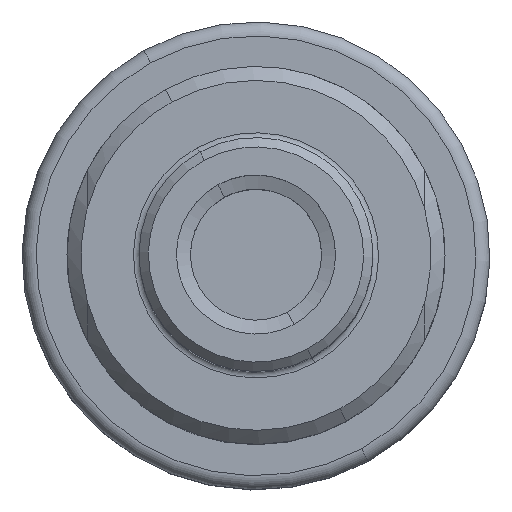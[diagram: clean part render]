
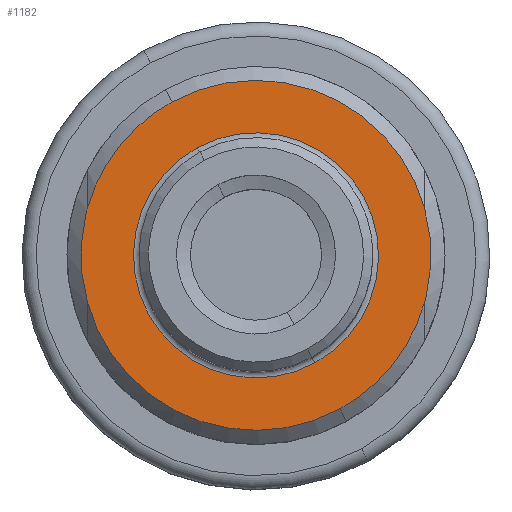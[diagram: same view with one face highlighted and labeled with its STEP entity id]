
A CAD part, top view. The second image highlights one B-rep face of the part: STEP entity #1182.
In plain terms, the highlighted planar face has unit normal (0, 0, 1).
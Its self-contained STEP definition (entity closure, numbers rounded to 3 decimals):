
#1062=AXIS2_PLACEMENT_3D('Circle Axis2P3D',#1060,#1061,$) ;
#1137=AXIS2_PLACEMENT_3D('Circle Axis2P3D',#1135,#1136,$) ;
#1152=AXIS2_PLACEMENT_3D('Plane Axis2P3D',#1149,#1150,#1151) ;
#1166=AXIS2_PLACEMENT_3D('Circle Axis2P3D',#1164,#1165,$) ;
#1175=AXIS2_PLACEMENT_3D('Circle Axis2P3D',#1173,#1174,$) ;
#982=CARTESIAN_POINT('Vertex',(8.965,-16.411,-50.)) ;
#986=CARTESIAN_POINT('Control Point',(8.965,-16.411,-50.)) ;
#987=CARTESIAN_POINT('Control Point',(6.168,-17.939,-50.)) ;
#988=CARTESIAN_POINT('Control Point',(3.046,-18.871,-50.)) ;
#989=CARTESIAN_POINT('Control Point',(-0.231,-19.114,-50.)) ;
#990=CARTESIAN_POINT('Control Point',(-7.031,-18.14,-50.)) ;
#991=CARTESIAN_POINT('Control Point',(-12.791,-14.335,-50.)) ;
#992=CARTESIAN_POINT('Control Point',(-15.283,-11.642,-50.)) ;
#993=CARTESIAN_POINT('Control Point',(-17.043,-8.468,-50.)) ;
#994=CARTESIAN_POINT('Control Point',(-18.,-5.069,-50.)) ;
#995=CARTESIAN_POINT('Vertex',(-18.,-5.069,-50.)) ;
#1021=CARTESIAN_POINT('Vertex',(18.,-5.069,-50.)) ;
#1025=CARTESIAN_POINT('Control Point',(18.,-5.069,-50.)) ;
#1026=CARTESIAN_POINT('Control Point',(16.991,-8.652,-50.)) ;
#1027=CARTESIAN_POINT('Control Point',(15.028,-11.971,-50.)) ;
#1028=CARTESIAN_POINT('Control Point',(12.233,-14.626,-50.)) ;
#1029=CARTESIAN_POINT('Control Point',(8.965,-16.411,-50.)) ;
#1048=CARTESIAN_POINT('Vertex',(18.,5.069,-50.)) ;
#1052=CARTESIAN_POINT('Control Point',(18.,5.069,-50.)) ;
#1053=CARTESIAN_POINT('Control Point',(18.648,2.769,-50.)) ;
#1054=CARTESIAN_POINT('Control Point',(18.903,0.358,-50.)) ;
#1055=CARTESIAN_POINT('Control Point',(18.739,-2.06,-50.)) ;
#1056=CARTESIAN_POINT('Control Point',(18.179,-4.382,-50.)) ;
#1057=CARTESIAN_POINT('Vertex',(18.179,-4.382,-50.)) ;
#1060=CARTESIAN_POINT('Axis2P3D Location',(0.,0.,-50.)) ;
#1077=CARTESIAN_POINT('Vertex',(-8.965,16.411,-50.)) ;
#1081=CARTESIAN_POINT('Control Point',(-8.965,16.411,-50.)) ;
#1082=CARTESIAN_POINT('Control Point',(-6.168,17.939,-50.)) ;
#1083=CARTESIAN_POINT('Control Point',(-3.046,18.871,-50.)) ;
#1084=CARTESIAN_POINT('Control Point',(0.231,19.114,-50.)) ;
#1085=CARTESIAN_POINT('Control Point',(7.031,18.14,-50.)) ;
#1086=CARTESIAN_POINT('Control Point',(12.791,14.335,-50.)) ;
#1087=CARTESIAN_POINT('Control Point',(15.283,11.642,-50.)) ;
#1088=CARTESIAN_POINT('Control Point',(17.043,8.468,-50.)) ;
#1089=CARTESIAN_POINT('Control Point',(18.,5.069,-50.)) ;
#1108=CARTESIAN_POINT('Vertex',(-18.,5.069,-50.)) ;
#1112=CARTESIAN_POINT('Control Point',(-18.,5.069,-50.)) ;
#1113=CARTESIAN_POINT('Control Point',(-16.991,8.652,-50.)) ;
#1114=CARTESIAN_POINT('Control Point',(-15.028,11.971,-50.)) ;
#1115=CARTESIAN_POINT('Control Point',(-12.233,14.626,-50.)) ;
#1116=CARTESIAN_POINT('Control Point',(-8.965,16.411,-50.)) ;
#1127=CARTESIAN_POINT('Control Point',(-18.,-5.069,-50.)) ;
#1128=CARTESIAN_POINT('Control Point',(-18.648,-2.769,-50.)) ;
#1129=CARTESIAN_POINT('Control Point',(-18.903,-0.358,-50.)) ;
#1130=CARTESIAN_POINT('Control Point',(-18.739,2.06,-50.)) ;
#1131=CARTESIAN_POINT('Control Point',(-18.179,4.382,-50.)) ;
#1132=CARTESIAN_POINT('Vertex',(-18.179,4.382,-50.)) ;
#1135=CARTESIAN_POINT('Axis2P3D Location',(0.,0.,-50.)) ;
#1149=CARTESIAN_POINT('Axis2P3D Location',(0.,20.2,-50.)) ;
#1164=CARTESIAN_POINT('Axis2P3D Location',(0.,0.,-50.)) ;
#1168=CARTESIAN_POINT('Vertex',(-6.28,11.496,-50.)) ;
#1170=CARTESIAN_POINT('Vertex',(6.28,-11.496,-50.)) ;
#1173=CARTESIAN_POINT('Axis2P3D Location',(0.,0.,-50.)) ;
#1061=DIRECTION('Axis2P3D Direction',(0.,0.,1.)) ;
#1136=DIRECTION('Axis2P3D Direction',(0.,0.,1.)) ;
#1150=DIRECTION('Axis2P3D Direction',(0.,0.,1.)) ;
#1151=DIRECTION('Axis2P3D XDirection',(1.,0.,0.)) ;
#1165=DIRECTION('Axis2P3D Direction',(0.,0.,1.)) ;
#1174=DIRECTION('Axis2P3D Direction',(0.,0.,1.)) ;
#1155=ORIENTED_EDGE('',*,*,#997,.F.) ;
#1156=ORIENTED_EDGE('',*,*,#1030,.F.) ;
#1157=ORIENTED_EDGE('',*,*,#1064,.F.) ;
#1158=ORIENTED_EDGE('',*,*,#1059,.F.) ;
#1159=ORIENTED_EDGE('',*,*,#1090,.F.) ;
#1160=ORIENTED_EDGE('',*,*,#1117,.F.) ;
#1161=ORIENTED_EDGE('',*,*,#1139,.F.) ;
#1162=ORIENTED_EDGE('',*,*,#1134,.F.) ;
#1179=ORIENTED_EDGE('',*,*,#1172,.F.) ;
#1180=ORIENTED_EDGE('',*,*,#1177,.F.) ;
#1181=FACE_BOUND('',#1178,.T.) ;
#1182=ADVANCED_FACE('NOCUT',(#1163,#1181),#1153,.T.) ;
#985=B_SPLINE_CURVE_WITH_KNOTS('',5,(#986,#987,#988,#989,#990,#991,#992,#993,#994),.UNSPECIFIED.,.F.,.U.,(6,3,6),(0.,86.693,182.765),.UNSPECIFIED.) ;
#1024=B_SPLINE_CURVE_WITH_KNOTS('',4,(#1025,#1026,#1027,#1028,#1029),.UNSPECIFIED.,.F.,.U.,(5,5),(51.99,133.009),.UNSPECIFIED.) ;
#1051=B_SPLINE_CURVE_WITH_KNOTS('',4,(#1052,#1053,#1054,#1055,#1056),.UNSPECIFIED.,.F.,.U.,(5,5),(182.765,234.755),.UNSPECIFIED.) ;
#1080=B_SPLINE_CURVE_WITH_KNOTS('',5,(#1081,#1082,#1083,#1084,#1085,#1086,#1087,#1088,#1089),.UNSPECIFIED.,.F.,.U.,(6,3,6),(0.,86.693,182.765),.UNSPECIFIED.) ;
#1111=B_SPLINE_CURVE_WITH_KNOTS('',4,(#1112,#1113,#1114,#1115,#1116),.UNSPECIFIED.,.F.,.U.,(5,5),(51.99,133.009),.UNSPECIFIED.) ;
#1126=B_SPLINE_CURVE_WITH_KNOTS('',4,(#1127,#1128,#1129,#1130,#1131),.UNSPECIFIED.,.F.,.U.,(5,5),(182.765,234.755),.UNSPECIFIED.) ;
#1063=CIRCLE('generated circle',#1062,18.7) ;
#1138=CIRCLE('generated circle',#1137,18.7) ;
#1167=CIRCLE('generated circle',#1166,13.1) ;
#1176=CIRCLE('generated circle',#1175,13.1) ;
#997=EDGE_CURVE('',#983,#996,#985,.T.) ;
#1030=EDGE_CURVE('',#1022,#983,#1024,.T.) ;
#1059=EDGE_CURVE('',#1049,#1058,#1051,.T.) ;
#1064=EDGE_CURVE('',#1058,#1022,#1063,.F.) ;
#1090=EDGE_CURVE('',#1078,#1049,#1080,.T.) ;
#1117=EDGE_CURVE('',#1109,#1078,#1111,.T.) ;
#1134=EDGE_CURVE('',#996,#1133,#1126,.T.) ;
#1139=EDGE_CURVE('',#1133,#1109,#1138,.F.) ;
#1172=EDGE_CURVE('',#1169,#1171,#1167,.T.) ;
#1177=EDGE_CURVE('',#1171,#1169,#1176,.T.) ;
#1154=EDGE_LOOP('',(#1155,#1156,#1157,#1158,#1159,#1160,#1161,#1162)) ;
#1178=EDGE_LOOP('',(#1179,#1180)) ;
#1163=FACE_OUTER_BOUND('',#1154,.T.) ;
#1153=PLANE('',#1152) ;
#983=VERTEX_POINT('',#982) ;
#996=VERTEX_POINT('',#995) ;
#1022=VERTEX_POINT('',#1021) ;
#1049=VERTEX_POINT('',#1048) ;
#1058=VERTEX_POINT('',#1057) ;
#1078=VERTEX_POINT('',#1077) ;
#1109=VERTEX_POINT('',#1108) ;
#1133=VERTEX_POINT('',#1132) ;
#1169=VERTEX_POINT('',#1168) ;
#1171=VERTEX_POINT('',#1170) ;
